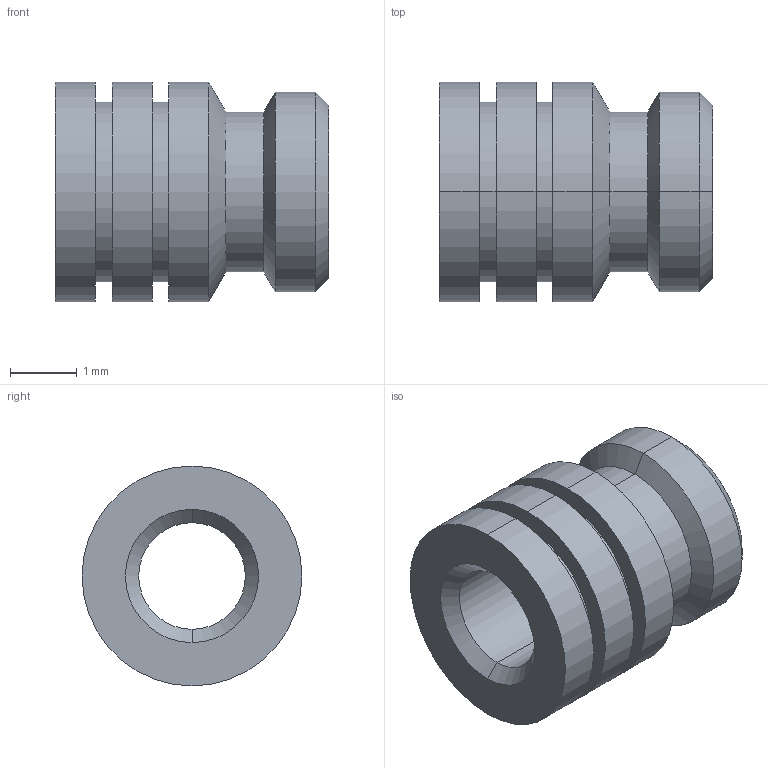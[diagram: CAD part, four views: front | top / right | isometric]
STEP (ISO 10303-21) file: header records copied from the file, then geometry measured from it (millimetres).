
FILE_DESCRIPTION (( 'STEP AP203' ), '1' );
FILE_NAME ('FSUK-MU-M02-S.STEP', '2021-04-15T13:12:56', ( '' ), ( '' ), 'SwSTEP 2.0', 'SolidWorks 2021', '' );
FILE_SCHEMA (( 'CONFIG_CONTROL_DESIGN' ));
Length unit declared in the file: millimetre
Products named in the file (1): FSUK-MU-M02-S
Bounding box: 4.1 x 3.3 x 3.3 mm (x, y, z)
Volume: 20.5 mm3; surface area: 83.6 mm2
Topology: 1 solids, 1 shells, 32 faces, 64 edges, 38 vertices
Faces by surface type: cylinder 16, cone 10, plane 6
Entity records: 915 total; most frequent: DIRECTION 168, CARTESIAN_POINT 135, ORIENTED_EDGE 128, AXIS2_PLACEMENT_3D 71, EDGE_CURVE 64, EDGE_LOOP 38, CIRCLE 38, VERTEX_POINT 38
